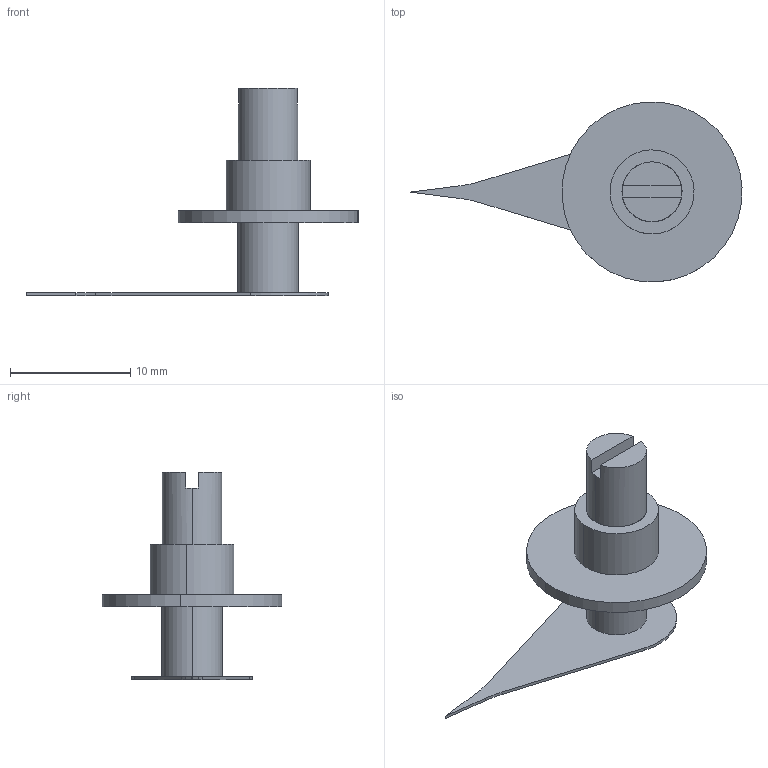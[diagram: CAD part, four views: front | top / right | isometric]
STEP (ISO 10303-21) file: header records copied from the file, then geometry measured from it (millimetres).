
FILE_DESCRIPTION (( 'STEP AP214' ), '1' );
FILE_NAME ('pole²Õ¦X.STEP', '2026-07-10T15:12:34', ( '' ), ( '' ), 'SwSTEP 2.0', 'SolidWorks 2024', '' );
FILE_SCHEMA (( 'AUTOMOTIVE_DESIGN' ));
Length unit declared in the file: millimetre
Products named in the file (4): pole組合; 襯套; 短導柱; pole
Assembly tree (3 placements, depth 2):
  pole組合
    pole
    短導柱
    襯套
Bounding box: 27.64 x 14.98 x 17.25 mm (x, y, z)
Volume: 595.4 mm3; surface area: 1127.5 mm2
Topology: 3 solids, 3 shells, 31 faces, 69 edges, 46 vertices
Faces by surface type: plane 16, cylinder 15
Entity records: 1002 total; most frequent: DIRECTION 177, CARTESIAN_POINT 152, ORIENTED_EDGE 138, AXIS2_PLACEMENT_3D 71, EDGE_CURVE 69, VERTEX_POINT 46, VECTOR 35, LINE 35
